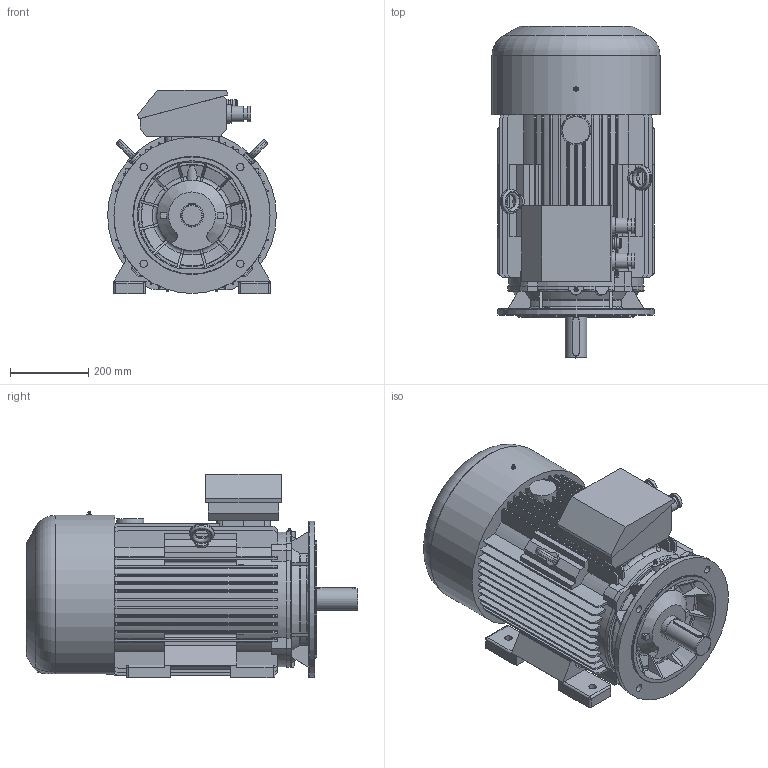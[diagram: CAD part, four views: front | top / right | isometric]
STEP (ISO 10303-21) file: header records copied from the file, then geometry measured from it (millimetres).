
FILE_DESCRIPTION(/* description */ ('Unknown'),/* implementation_level */ '2;1');
FILE_NAME(/* name */ '3SIEL200L2_8',/* time_stamp */ '2021-04-12T13:17:28+02:00',/* author */ ('Unknown'),/* organization */ ('Unknown'),/* preprocessor_version */ 'ST-DEVELOPER v16.7',/* originating_system */ 'DEX',/* authorisation */ $);
FILE_SCHEMA (('AUTOMOTIVE_DESIGN {1 0 10303 214 3 1 1}'));
Length unit declared in the file: millimetre
Products named in the file (1): 2SIEL 200 silnik
Bounding box: 432.02 x 850.06 x 520 mm (x, y, z)
Volume: 88036628.4 mm3; surface area: 2800664.1 mm2
Topology: 2 solids, 5 shells, 958 faces, 2695 edges, 1773 vertices
Faces by surface type: plane 653, cylinder 173, torus 82, cone 30, bspline 16, sphere 4
Full cylindrical faces by diameter (mm): 1.6 x2, 5 x5, 16.891 x1, 19 x8, 24 x1, 26.969 x1, 30 x4, 30.249 x1, 31 x1, 35 x4, 40 x4, 47 x2, 55 x1, 59.498 x1, 178 x1, 180 x1, 299.988 x1, 399.988 x1
Entity records: 38172 total; most frequent: CARTESIAN_POINT 7168, ORIENTED_EDGE 5216, DIRECTION 4783, EDGE_CURVE 2608, VERTEX_POINT 1754, LINE 1675, VECTOR 1675, AXIS2_PLACEMENT_3D 1554
